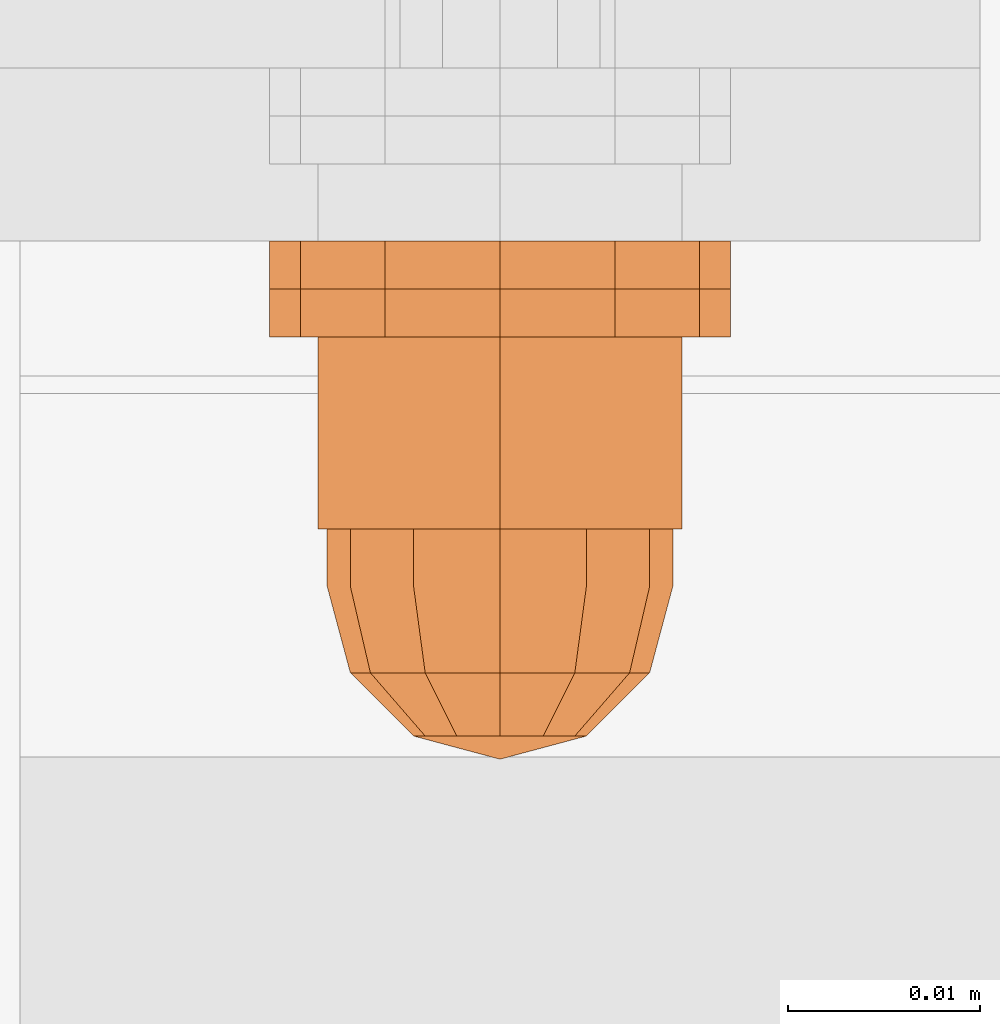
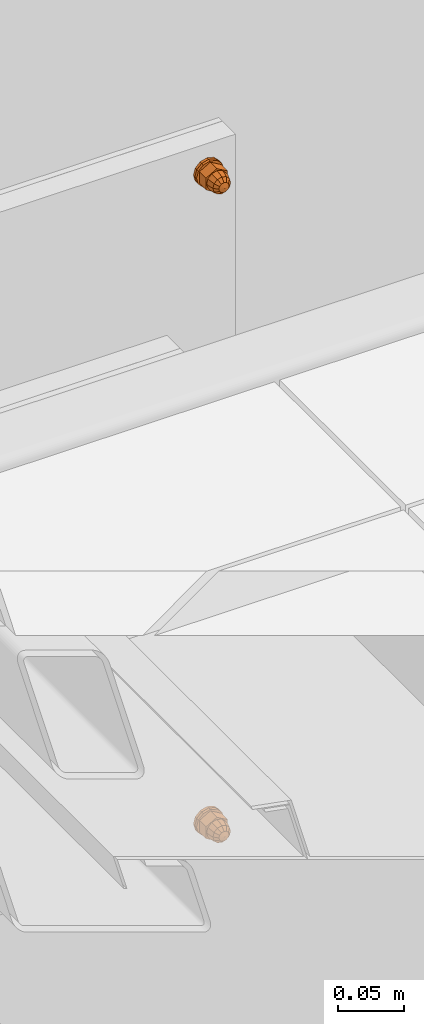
# One storey, part 140 of 162: 6 proxies.
"""IFC2X3 building model written with IfcOpenShell, lengths in millimetres."""

import ifcopenshell
import ifcopenshell.guid

model = None  # the IFC model being written
_history = None  # IfcOwnerHistory: only IFC2X3 demands one
_inside = {}  # id of a spatial element -> (the spatial element, [elements in it])
_under = {}  # id of a project, library or spatial element -> (it, [spatial elements below it])
_declared = {}  # id of a project -> (the project, [libraries it declares])
_typed = {}  # id of a type object -> (the type object, [elements of that type])
_made_of = {}  # id of a material, layer set ... -> (it, [elements and type objects made of it])


def new_model(schema):
    """Start an empty IFC model of exactly this schema.

    Asked for "IFC4X3", IfcOpenShell would pick the latest addendum, in which some entities
    have other attributes; the version numbers below select the first issue.
    IFC2X3 requires an IfcOwnerHistory on every rooted entity: one is made here for all.
    """
    global model, _history
    if schema == "IFC4X3":
        model = ifcopenshell.file(schema_version=(4, 3, 0, 0))
    else:
        model = ifcopenshell.file(schema=schema)
    _inside.clear()
    _under.clear()
    _declared.clear()
    _typed.clear()
    _made_of.clear()
    _history = None
    if model.schema == "IFC2X3":
        org = make("IfcOrganization", Name="unknown")
        user = make(
            "IfcPersonAndOrganization",
            ThePerson=make("IfcPerson", FamilyName="unknown"),
            TheOrganization=org,
        )
        app = make(
            "IfcApplication",
            ApplicationDeveloper=org,
            Version="unknown",
            ApplicationFullName="unknown",
            ApplicationIdentifier="unknown",
        )
        _history = make(
            "IfcOwnerHistory",
            OwningUser=user,
            OwningApplication=app,
            ChangeAction="ADDED",
            CreationDate=0,
        )
    return model


def make(cls, **values):
    """One entity of the class cls with the attributes given. An attribute that is None is left unset."""
    return model.create_entity(
        cls, **{name: value for name, value in values.items() if value is not None}
    )


def entity(cls, *values):
    """Any entity or typed value of the class cls, its attributes in the order of the schema. None: left unset."""
    e = model.create_entity(cls)
    for i, value in enumerate(values):
        if value is not None:
            e[i] = value
    return e


def rooted(cls, **values):
    """An entity with a GlobalId (a new one), such as an element, a storey or a relation."""
    return make(cls, GlobalId=ifcopenshell.guid.new(), OwnerHistory=_history, **values)


def si_unit(unit_type, name, prefix=None):
    """IfcSIUnit, for example si_unit("LENGTHUNIT", "METRE", prefix="MILLI")."""
    return make("IfcSIUnit", UnitType=unit_type, Prefix=prefix, Name=name)


def converted_unit(unit_type, name, factor, base, dimensions=None, offset=None):
    """IfcConversionBasedUnit, such as the inch: factor (a typed value) times the base unit."""
    return make(
        "IfcConversionBasedUnit"
        if offset is None
        else "IfcConversionBasedUnitWithOffset",
        ConversionOffset=offset,
        Dimensions=None
        if dimensions is None
        else entity("IfcDimensionalExponents", *dimensions),
        UnitType=unit_type,
        Name=name,
        ConversionFactor=make(
            "IfcMeasureWithUnit", ValueComponent=factor, UnitComponent=base
        ),
    )


def assignment(units):
    """IfcUnitAssignment: the units of a project."""
    return None if units is None else make("IfcUnitAssignment", Units=units)


def point(xyz):
    """IfcCartesianPoint."""
    return None if xyz is None else make("IfcCartesianPoint", Coordinates=xyz)


def direction(xyz):
    """IfcDirection."""
    return None if xyz is None else make("IfcDirection", DirectionRatios=xyz)


def frame(location, z_axis=None, x_axis=None):
    """IfcAxis2Placement3D, a coordinate frame: its origin and axes. An axis left out is left unset."""
    return make(
        "IfcAxis2Placement3D",
        Location=point(location),
        Axis=direction(z_axis),
        RefDirection=direction(x_axis),
    )


def origin_with_axes():
    """The frame at (0, 0, 0) with the z axis (0, 0, 1) and the x axis (1, 0, 0) written out."""
    return frame((0.0, 0.0, 0.0), z_axis=(0.0, 0.0, 1.0), x_axis=(1.0, 0.0, 0.0))


def place(relative_to, where):
    """IfcLocalPlacement: puts the frame where relative to a parent placement (None: the world)."""
    return make(
        "IfcLocalPlacement", PlacementRelTo=relative_to, RelativePlacement=where
    )


def context(
    kind, dimensions, precision=None, world=None, true_north=None, identifier=None
):
    """IfcGeometricRepresentationContext, for example the 3D "Model" context."""
    return make(
        "IfcGeometricRepresentationContext",
        ContextIdentifier=identifier,
        ContextType=kind,
        CoordinateSpaceDimension=dimensions,
        Precision=precision,
        WorldCoordinateSystem=world,
        TrueNorth=true_north,
    )


def project(units=None, contexts=None):
    """IfcProject with its units and contexts."""
    return rooted(
        "IfcProject",
        Name="project",
        RepresentationContexts=contexts,
        UnitsInContext=assignment(units),
    )


def spatial(cls, under=None, at=None, **own):
    """A site, building, storey or space (cls), placed at a placement, below another one or the project."""
    s = rooted(cls, ObjectPlacement=at, **own)
    if under is not None:
        _under.setdefault(under.id(), (under, []))[1].append(s)
    return s


def faces_of(points, faces, orient=None, outer=None):
    """IfcFace entities. A face is a list of loops; a loop is a list of indices into points, from 0.

    orient and outer hold one flag for each loop. By default every Orientation is true, the
    first loop of a face is its IfcFaceOuterBound and the others are IfcFaceBound.
    """
    made = []
    for i, loops in enumerate(faces):
        bounds = []
        for j, loop in enumerate(loops):
            is_outer = j == 0 if outer is None else outer[i][j]
            bounds.append(
                make(
                    "IfcFaceOuterBound" if is_outer else "IfcFaceBound",
                    Bound=make("IfcPolyLoop", Polygon=[points[k] for k in loop]),
                    Orientation=True if orient is None else orient[i][j],
                )
            )
        made.append(make("IfcFace", Bounds=bounds))
    return made


def faceted_brep(points, faces, orient=None, outer=None, voids=None):
    """IfcFacetedBrep: a solid bounded by flat faces; with voids (closed shells), ...WithVoids."""
    shared = [point(p) for p in points]
    hull = make("IfcClosedShell", CfsFaces=faces_of(shared, faces, orient, outer))
    if voids is None:
        return make("IfcFacetedBrep", Outer=hull)
    return make(
        "IfcFacetedBrepWithVoids",
        Outer=hull,
        Voids=[
            make(cls, CfsFaces=faces_of(shared, fs, o, b)) for cls, fs, o, b in voids
        ],
    )


def shape(context_of_items, identifier, shape_type, items):
    """IfcShapeRepresentation: the items that make up one representation, for example the "Body"."""
    return make(
        "IfcShapeRepresentation",
        ContextOfItems=context_of_items,
        RepresentationIdentifier=identifier,
        RepresentationType=shape_type,
        Items=items,
    )


def material(Name=None, Category=None):
    """IfcMaterial."""
    return make("IfcMaterial", Name=Name, Category=Category)


def made_of(thing, what):
    """Note that an element or type object is made of a material, layer set ...; save() writes the relation."""
    if what is not None:
        _made_of.setdefault(what.id(), (what, []))[1].append(thing)
    return thing


def element(
    cls,
    number,
    at=None,
    inside=None,
    cuts=None,
    type_object=None,
    material=None,
    context=None,
    identifier="Body",
    shape_type=None,
    held_by="IfcProductDefinitionShape",
    body=None,
    shapes=None,
    **own,
):
    """One element of the class cls, such as IfcWall. Its Tag is "e" and its number.

    at: its placement. inside: the storey or other place that contains it. cuts: it is an
    opening in that element (IfcRelVoidsElement). A single representation is given by context,
    identifier, shape_type and body (its items); several are given by shapes. held_by: the class
    of the entity that holds the representations. save() writes the other relations.
    """
    e = rooted(cls, Tag="e%d" % number, ObjectPlacement=at, **own)
    if body is not None:
        shapes = [shape(context, identifier, shape_type, body)]
    if shapes is not None:
        e.Representation = make(held_by, Representations=shapes)
    if inside is not None:
        _inside.setdefault(inside.id(), (inside, []))[1].append(e)
    if cuts is not None:
        rooted(
            "IfcRelVoidsElement", RelatingBuildingElement=cuts, RelatedOpeningElement=e
        )
    if type_object is not None:
        _typed.setdefault(type_object.id(), (type_object, []))[1].append(e)
    return made_of(e, material)


def aggregate(whole, parts):
    """IfcRelAggregates: a whole, such as a stair, and the parts it consists of."""
    return rooted("IfcRelAggregates", RelatingObject=whole, RelatedObjects=parts)


def save(model, path):
    """Write the relations noted so far, then the file.

    IfcRelAggregates (storeys below a building ...), IfcRelContainedInSpatialStructure (elements
    in a storey), IfcRelDefinesByType, IfcRelAssociatesMaterial and IfcRelDeclares: one each for
    every whole, place, type object, material and project.
    """
    for whole, parts in _under.values():
        aggregate(whole, parts)
    for where, things in _inside.values():
        rooted(
            "IfcRelContainedInSpatialStructure",
            RelatedElements=things,
            RelatingStructure=where,
        )
    for kind, things in _typed.values():
        rooted("IfcRelDefinesByType", RelatedObjects=things, RelatingType=kind)
    for what, things in _made_of.values():
        rooted("IfcRelAssociatesMaterial", RelatedObjects=things, RelatingMaterial=what)
    for by, libraries in _declared.values():
        rooted("IfcRelDeclares", RelatingContext=by, RelatedDefinitions=libraries)
    model.write(path)


model = new_model("IFC2X3")

# Units and contexts
model_context = context("Model", 3, precision=1e-09, world=origin_with_axes())
ifc_project = project(units=[si_unit("LENGTHUNIT", "METRE", prefix="MILLI"), si_unit("AREAUNIT", "SQUARE_METRE"), si_unit("VOLUMEUNIT", "CUBIC_METRE"), converted_unit("PLANEANGLEUNIT", "DEGREE", entity("IfcPlaneAngleMeasure", 0.01745329), si_unit("PLANEANGLEUNIT", "RADIAN"), dimensions=[0, 0, 0, 0, 0, 0, 0])], contexts=[model_context])

# Site, building, storey
site_placement = place(None, origin_with_axes())
site = spatial("IfcSite", under=ifc_project, at=site_placement, Name="Hermannstra?e 1a, 60318 Frankfurt", CompositionType="ELEMENT")
building_placement = place(site_placement, origin_with_axes())
building = spatial("IfcBuilding", under=site, at=building_placement, Name="Struktur 1", CompositionType="ELEMENT")
storey_placement = place(building_placement, origin_with_axes())
storey = spatial("IfcBuildingStorey", under=building, at=storey_placement, Name="Default Storey", CompositionType="ELEMENT", Elevation=0.0)

# Proxies
ifc_material_1 = material(Name="A4")
proxy_1_placement = place(None, origin_with_axes())
element("IfcBuildingElementProxy", 1, at=proxy_1_placement, inside=storey, material=ifc_material_1, ObjectType="-", context=model_context, shape_type="Brep", body=[
    faceted_brep([(2934.309364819, 2695.609373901, 11004.999), (2934.309364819, 2705.609373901, 11004.999), (2933.505517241, 2705.609373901, 11001.999), (2933.505517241, 2695.609373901, 11001.999), (2931.309364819, 2705.609373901, 10999.802847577), (2931.309364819, 2695.609373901, 10999.802847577), (2933.505517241, 2695.609373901, 11007.999), (2933.505517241, 2705.609373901, 11007.999), (2937.789234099, 2705.609373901, 11010.472205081), (2937.789234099, 2705.609373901, 10999.525794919), (2928.309364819, 2705.609373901, 10994.052589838), (2918.829495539, 2705.609373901, 10999.525794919), (2918.829495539, 2705.609373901, 11010.472205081), (2928.309364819, 2705.609373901, 11015.945410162), (2931.309364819, 2705.609373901, 11010.195152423), (2928.309364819, 2705.609373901, 11010.999), (2925.309364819, 2705.609373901, 11010.195152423), (2923.113212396, 2705.609373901, 11007.999), (2922.309364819, 2705.609373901, 11004.999), (2923.113212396, 2705.609373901, 11001.999), (2925.309364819, 2705.609373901, 10999.802847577), (2928.309364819, 2705.609373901, 10998.999), (2937.789234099, 2695.609373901, 11010.472205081), (2928.309364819, 2695.609373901, 11015.945410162), (2918.829495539, 2695.609373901, 11010.472205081), (2918.829495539, 2695.609373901, 10999.525794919), (2928.309364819, 2695.609373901, 10994.052589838), (2937.789234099, 2695.609373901, 10999.525794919), (2931.309364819, 2695.609373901, 11010.195152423), (2928.309364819, 2695.609373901, 10998.999), (2928.309364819, 2695.609373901, 11010.999), (2925.309364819, 2695.609373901, 10999.802847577), (2925.309364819, 2695.609373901, 11010.195152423), (2923.113212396, 2695.609373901, 11001.999), (2923.113212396, 2695.609373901, 11007.999), (2922.309364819, 2695.609373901, 11004.999)], [[[0, 1, 2, 3]], [[3, 2, 4, 5]], [[1, 0, 6, 7]], [[8, 9, 10, 11, 12, 13], [7, 14, 15, 16, 17, 18, 19, 20, 21, 4, 2, 1]], [[22, 23, 24, 25, 26, 27]], [[7, 6, 28, 14]], [[22, 27, 9, 8]], [[5, 4, 21, 29]], [[10, 9, 27, 26]], [[14, 28, 30, 15]], [[23, 22, 8, 13]], [[29, 21, 20, 31]], [[11, 10, 26, 25]], [[15, 30, 32, 16]], [[24, 23, 13, 12]], [[31, 20, 19, 33]], [[25, 24, 12, 11]], [[16, 32, 34, 17]], [[33, 19, 18, 35]], [[17, 34, 35, 18]]]),
    faceted_brep([(2928.309364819, 2692.609373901, 11013.999), (2928.309364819, 2695.609373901, 11013.999), (2923.809364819, 2695.609373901, 11012.793228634), (2923.809364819, 2692.609373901, 11012.793228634), (2932.809364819, 2692.609373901, 11012.793228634), (2932.809364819, 2695.609373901, 11012.793228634), (2932.809364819, 2692.609373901, 10997.204771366), (2936.103593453, 2692.609373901, 11000.499), (2937.309364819, 2692.609373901, 11004.999), (2936.103593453, 2692.609373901, 11009.499), (2920.515136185, 2692.609373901, 11009.499), (2919.309364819, 2692.609373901, 11004.999), (2920.515136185, 2692.609373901, 11000.499), (2923.809364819, 2692.609373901, 10997.204771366), (2928.309364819, 2692.609373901, 10995.999), (2923.809364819, 2695.609373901, 10997.204771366), (2920.515136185, 2695.609373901, 11000.499), (2919.309364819, 2695.609373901, 11004.999), (2920.515136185, 2695.609373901, 11009.499), (2936.103593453, 2695.609373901, 11009.499), (2937.309364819, 2695.609373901, 11004.999), (2936.103593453, 2695.609373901, 11000.499), (2932.809364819, 2695.609373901, 10997.204771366), (2928.309364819, 2695.609373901, 10995.999)], [[[0, 1, 2, 3]], [[1, 0, 4, 5]], [[6, 7, 8, 9, 4, 0, 3, 10, 11, 12, 13, 14]], [[15, 16, 17, 18, 2, 1, 5, 19, 20, 21, 22, 23]], [[3, 2, 18, 10]], [[5, 4, 9, 19]], [[10, 18, 17, 11]], [[19, 9, 8, 20]], [[22, 6, 14, 23]], [[7, 21, 20, 8]], [[6, 22, 21, 7]], [[11, 17, 16, 12]], [[23, 14, 13, 15]], [[12, 16, 15, 13]]]),
    faceted_brep([(2935.059364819, 2688.109373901, 11008.896114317), (2936.103593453, 2692.609373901, 11009.499), (2932.809364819, 2692.609373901, 11012.793228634), (2932.206479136, 2688.109373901, 11011.749), (2923.809364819, 2692.609373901, 10997.204771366), (2920.515136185, 2692.609373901, 11000.499), (2919.309364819, 2692.609373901, 11004.999), (2920.515136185, 2692.609373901, 11009.499), (2923.809364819, 2692.609373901, 11012.793228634), (2928.309364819, 2692.609373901, 11013.999), (2937.309364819, 2692.609373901, 11004.999), (2936.103593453, 2692.609373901, 11000.499), (2932.809364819, 2692.609373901, 10997.204771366), (2928.309364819, 2692.609373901, 10995.999), (2928.309364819, 2688.109373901, 11012.793228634), (2932.809364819, 2684.815145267, 11004.999), (2936.103593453, 2688.109373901, 11004.999), (2932.206479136, 2684.815145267, 11007.249), (2924.412250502, 2688.109373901, 11011.749), (2930.559364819, 2684.815145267, 11008.896114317), (2932.206479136, 2684.815145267, 11002.749), (2935.059364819, 2688.109373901, 11001.101885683), (2928.309364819, 2684.815145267, 11009.499), (2928.309364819, 2683.609373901, 11004.999), (2930.559364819, 2684.815145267, 11001.101885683), (2932.206479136, 2688.109373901, 10998.249), (2928.309364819, 2688.109373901, 10997.204771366), (2921.559364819, 2688.109373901, 11008.896114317), (2926.059364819, 2684.815145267, 11008.896114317), (2928.309364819, 2684.815145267, 11000.499), (2924.412250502, 2688.109373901, 10998.249), (2926.059364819, 2684.815145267, 11001.101885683), (2920.515136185, 2688.109373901, 11004.999), (2924.412250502, 2684.815145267, 11007.249), (2921.559364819, 2688.109373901, 11001.101885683), (2924.412250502, 2684.815145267, 11002.749), (2923.809364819, 2684.815145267, 11004.999)], [[[0, 1, 2, 3]], [[4, 5, 6, 7, 8, 9, 2, 1, 10, 11, 12, 13]], [[3, 2, 9, 14]], [[15, 16, 0, 17]], [[1, 0, 16, 10]], [[14, 9, 8, 18]], [[17, 0, 3, 19]], [[16, 15, 20, 21]], [[19, 3, 14, 22]], [[17, 23, 15]], [[24, 25, 21, 20]], [[15, 23, 20]], [[12, 25, 26, 13]], [[11, 21, 25, 12]], [[10, 16, 21, 11]], [[18, 8, 7, 27]], [[22, 14, 18, 28]], [[19, 23, 17]], [[29, 26, 25, 24]], [[20, 23, 24]], [[22, 23, 19]], [[13, 26, 30, 4]], [[26, 29, 31, 30]], [[24, 23, 29]], [[27, 7, 6, 32]], [[28, 18, 27, 33]], [[28, 23, 22]], [[29, 23, 31]], [[33, 23, 28]], [[4, 30, 34, 5]], [[30, 31, 35, 34]], [[31, 23, 35]], [[32, 6, 5, 34]], [[33, 27, 32, 36]], [[36, 23, 33]], [[35, 23, 36]], [[34, 35, 36, 32]]]),
])
proxy_2_placement = place(None, origin_with_axes())
element("IfcBuildingElementProxy", 2, at=proxy_2_placement, inside=storey, material=ifc_material_1, ObjectType="-", context=model_context, shape_type="Brep", body=[
    faceted_brep([(2917.917059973, 2708.109373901, 11010.999), (2917.917059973, 2705.609373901, 11010.999), (2922.309364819, 2705.609373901, 11015.391304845), (2922.309364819, 2708.109373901, 11015.391304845), (2916.309364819, 2705.609373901, 11004.999), (2917.917059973, 2705.609373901, 10998.999), (2922.309364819, 2705.609373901, 10994.606695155), (2928.309364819, 2705.609373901, 10992.999), (2934.309364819, 2705.609373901, 10994.606695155), (2938.701669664, 2705.609373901, 10998.999), (2940.309364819, 2705.609373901, 11004.999), (2938.701669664, 2705.609373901, 11010.999), (2934.309364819, 2705.609373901, 11015.391304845), (2928.309364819, 2705.609373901, 11016.999), (2928.309364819, 2705.609373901, 11011.499), (2931.559364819, 2705.609373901, 11010.628165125), (2933.938529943, 2705.609373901, 11008.249), (2934.809364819, 2705.609373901, 11004.999), (2933.938529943, 2705.609373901, 11001.749), (2931.559364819, 2705.609373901, 10999.369834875), (2928.309364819, 2705.609373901, 10998.499), (2925.059364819, 2705.609373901, 10999.369834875), (2922.680199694, 2705.609373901, 11001.749), (2921.809364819, 2705.609373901, 11004.999), (2922.680199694, 2705.609373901, 11008.249), (2925.059364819, 2705.609373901, 11010.628165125), (2922.680199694, 2708.109373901, 11008.249), (2921.809364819, 2708.109373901, 11004.999), (2922.680199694, 2708.109373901, 11001.749), (2925.059364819, 2708.109373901, 10999.369834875), (2928.309364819, 2708.109373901, 10998.499), (2931.559364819, 2708.109373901, 10999.369834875), (2933.938529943, 2708.109373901, 11001.749), (2934.809364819, 2708.109373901, 11004.999), (2933.938529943, 2708.109373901, 11008.249), (2931.559364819, 2708.109373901, 11010.628165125), (2928.309364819, 2708.109373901, 11011.499), (2925.059364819, 2708.109373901, 11010.628165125), (2916.309364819, 2708.109373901, 11004.999), (2928.309364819, 2708.109373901, 11016.999), (2917.917059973, 2708.109373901, 10998.999), (2934.309364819, 2708.109373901, 11015.391304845), (2922.309364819, 2708.109373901, 10994.606695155), (2938.701669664, 2708.109373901, 11010.999), (2928.309364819, 2708.109373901, 10992.999), (2940.309364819, 2708.109373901, 11004.999), (2934.309364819, 2708.109373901, 10994.606695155), (2938.701669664, 2708.109373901, 10998.999)], [[[0, 1, 2, 3]], [[2, 1, 4, 5, 6, 7, 8, 9, 10, 11, 12, 13], [14, 15, 16, 17, 18, 19, 20, 21, 22, 23, 24, 25]], [[26, 27, 28, 29, 30, 31, 32, 33, 34, 35, 36, 37]], [[24, 26, 37, 25]], [[1, 0, 38, 4]], [[26, 24, 23, 27]], [[25, 37, 36, 14]], [[3, 2, 13, 39]], [[4, 38, 40, 5]], [[27, 23, 22, 28]], [[14, 36, 35, 15]], [[39, 13, 12, 41]], [[5, 40, 42, 6]], [[28, 22, 21, 29]], [[15, 35, 34, 16]], [[41, 12, 11, 43]], [[33, 17, 16, 34]], [[6, 42, 44, 7]], [[29, 21, 20, 30]], [[32, 18, 17, 33]], [[43, 11, 10, 45]], [[19, 31, 30, 20]], [[18, 32, 31, 19]], [[7, 44, 46, 8]], [[45, 10, 9, 47]], [[8, 46, 47, 9]]]),
])
ifc_material_2 = material(Name="Kunststoff")
proxy_3_placement = place(None, origin_with_axes())
element("IfcBuildingElementProxy", 3, at=proxy_3_placement, inside=storey, material=ifc_material_2, ObjectType="-", context=model_context, shape_type="Brep", body=[
    faceted_brep([(2938.701669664, 2710.609373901, 11010.999), (2938.701669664, 2708.109373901, 11010.999), (2940.309364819, 2708.109373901, 11004.999), (2940.309364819, 2710.609373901, 11004.999), (2933.938529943, 2710.609373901, 11008.249), (2931.559364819, 2710.609373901, 11010.628165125), (2928.309364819, 2710.609373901, 11011.499), (2925.059364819, 2710.609373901, 11010.628165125), (2922.680199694, 2710.609373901, 11008.249), (2921.809364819, 2710.609373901, 11004.999), (2922.680199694, 2710.609373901, 11001.749), (2925.059364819, 2710.609373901, 10999.369834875), (2928.309364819, 2710.609373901, 10998.499), (2931.559364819, 2710.609373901, 10999.369834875), (2933.938529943, 2710.609373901, 11001.749), (2934.809364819, 2710.609373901, 11004.999), (2934.809364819, 2708.109373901, 11004.999), (2933.938529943, 2708.109373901, 11008.249), (2934.309364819, 2708.109373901, 11015.391304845), (2928.309364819, 2708.109373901, 11016.999), (2922.309364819, 2708.109373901, 11015.391304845), (2917.917059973, 2708.109373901, 11010.999), (2916.309364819, 2708.109373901, 11004.999), (2917.917059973, 2708.109373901, 10998.999), (2922.309364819, 2708.109373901, 10994.606695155), (2928.309364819, 2708.109373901, 10992.999), (2934.309364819, 2708.109373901, 10994.606695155), (2938.701669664, 2708.109373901, 10998.999), (2934.309364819, 2710.609373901, 11015.391304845), (2933.938529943, 2708.109373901, 11001.749), (2938.701669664, 2710.609373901, 10998.999), (2931.559364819, 2708.109373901, 11010.628165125), (2928.309364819, 2710.609373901, 11016.999), (2931.559364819, 2708.109373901, 10999.369834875), (2934.309364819, 2710.609373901, 10994.606695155), (2928.309364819, 2708.109373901, 11011.499), (2928.309364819, 2708.109373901, 10998.499), (2922.309364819, 2710.609373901, 11015.391304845), (2925.059364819, 2708.109373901, 11010.628165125), (2928.309364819, 2710.609373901, 10992.999), (2925.059364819, 2708.109373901, 10999.369834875), (2917.917059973, 2710.609373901, 11010.999), (2922.680199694, 2708.109373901, 11008.249), (2922.309364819, 2710.609373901, 10994.606695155), (2922.680199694, 2708.109373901, 11001.749), (2916.309364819, 2710.609373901, 11004.999), (2921.809364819, 2708.109373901, 11004.999), (2917.917059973, 2710.609373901, 10998.999)], [[[0, 1, 2, 3]], [[4, 5, 6, 7, 8, 9, 10, 11, 12, 13, 14, 15]], [[15, 16, 17, 4]], [[1, 18, 19, 20, 21, 22, 23, 24, 25, 26, 27, 2]], [[1, 0, 28, 18]], [[16, 15, 14, 29]], [[3, 2, 27, 30]], [[4, 17, 31, 5]], [[18, 28, 32, 19]], [[29, 14, 13, 33]], [[30, 27, 26, 34]], [[5, 31, 35, 6]], [[33, 13, 12, 36]], [[19, 32, 37, 20]], [[6, 35, 38, 7]], [[34, 26, 25, 39]], [[36, 12, 11, 40]], [[20, 37, 41, 21]], [[7, 38, 42, 8]], [[39, 25, 24, 43]], [[40, 11, 10, 44]], [[21, 41, 45, 22]], [[8, 42, 46, 9]], [[43, 24, 23, 47]], [[44, 10, 9, 46]], [[22, 45, 47, 23]]]),
])
proxy_4_placement = place(None, origin_with_axes())
element("IfcBuildingElementProxy", 4, at=proxy_4_placement, inside=storey, material=ifc_material_2, ObjectType="-", context=model_context, shape_type="Brep", body=[
    faceted_brep([(2938.701669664, 2708.109373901, 11598.999), (2938.701669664, 2710.609373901, 11598.999), (2940.309364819, 2710.609373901, 11604.999), (2940.309364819, 2708.109373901, 11604.999), (2934.309364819, 2710.609373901, 11594.606695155), (2928.309364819, 2710.609373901, 11592.999), (2922.309364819, 2710.609373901, 11594.606695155), (2917.917059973, 2710.609373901, 11598.999), (2916.309364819, 2710.609373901, 11604.999), (2917.917059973, 2710.609373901, 11610.999), (2922.309364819, 2710.609373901, 11615.391304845), (2928.309364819, 2710.609373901, 11616.999), (2934.309364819, 2710.609373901, 11615.391304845), (2938.701669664, 2710.609373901, 11610.999), (2931.559364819, 2710.609373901, 11599.369834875), (2933.938529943, 2710.609373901, 11601.749), (2934.809364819, 2710.609373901, 11604.999), (2933.938529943, 2710.609373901, 11608.249), (2931.559364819, 2710.609373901, 11610.628165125), (2928.309364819, 2710.609373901, 11611.499), (2925.059364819, 2710.609373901, 11610.628165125), (2922.680199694, 2710.609373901, 11608.249), (2921.809364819, 2710.609373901, 11604.999), (2922.680199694, 2710.609373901, 11601.749), (2925.059364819, 2710.609373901, 11599.369834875), (2928.309364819, 2710.609373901, 11598.499), (2934.809364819, 2708.109373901, 11604.999), (2933.938529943, 2708.109373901, 11601.749), (2934.309364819, 2708.109373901, 11594.606695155), (2938.701669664, 2708.109373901, 11610.999), (2934.309364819, 2708.109373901, 11615.391304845), (2928.309364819, 2708.109373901, 11616.999), (2922.309364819, 2708.109373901, 11615.391304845), (2917.917059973, 2708.109373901, 11610.999), (2916.309364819, 2708.109373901, 11604.999), (2917.917059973, 2708.109373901, 11598.999), (2922.309364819, 2708.109373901, 11594.606695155), (2928.309364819, 2708.109373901, 11592.999), (2931.559364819, 2708.109373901, 11599.369834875), (2928.309364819, 2708.109373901, 11598.499), (2925.059364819, 2708.109373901, 11599.369834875), (2922.680199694, 2708.109373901, 11601.749), (2921.809364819, 2708.109373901, 11604.999), (2922.680199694, 2708.109373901, 11608.249), (2925.059364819, 2708.109373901, 11610.628165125), (2928.309364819, 2708.109373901, 11611.499), (2931.559364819, 2708.109373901, 11610.628165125), (2933.938529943, 2708.109373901, 11608.249)], [[[0, 1, 2, 3]], [[1, 4, 5, 6, 7, 8, 9, 10, 11, 12, 13, 2], [14, 15, 16, 17, 18, 19, 20, 21, 22, 23, 24, 25]], [[26, 16, 15, 27]], [[28, 0, 3, 29, 30, 31, 32, 33, 34, 35, 36, 37], [26, 27, 38, 39, 40, 41, 42, 43, 44, 45, 46, 47]], [[1, 0, 28, 4]], [[16, 26, 47, 17]], [[3, 2, 13, 29]], [[27, 15, 14, 38]], [[4, 28, 37, 5]], [[17, 47, 46, 18]], [[29, 13, 12, 30]], [[38, 14, 25, 39]], [[18, 46, 45, 19]], [[5, 37, 36, 6]], [[39, 25, 24, 40]], [[30, 12, 11, 31]], [[19, 45, 44, 20]], [[6, 36, 35, 7]], [[40, 24, 23, 41]], [[31, 11, 10, 32]], [[20, 44, 43, 21]], [[7, 35, 34, 8]], [[41, 23, 22, 42]], [[32, 10, 9, 33]], [[21, 43, 42, 22]], [[8, 34, 33, 9]]]),
])
proxy_5_placement = place(None, origin_with_axes())
element("IfcBuildingElementProxy", 5, at=proxy_5_placement, inside=storey, material=ifc_material_1, ObjectType="-", context=model_context, shape_type="Brep", body=[
    faceted_brep([(2917.917059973, 2705.609373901, 11598.999), (2917.917059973, 2708.109373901, 11598.999), (2922.309364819, 2708.109373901, 11594.606695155), (2922.309364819, 2705.609373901, 11594.606695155), (2928.309364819, 2705.609373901, 11592.999), (2934.309364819, 2705.609373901, 11594.606695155), (2938.701669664, 2705.609373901, 11598.999), (2940.309364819, 2705.609373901, 11604.999), (2938.701669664, 2705.609373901, 11610.999), (2934.309364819, 2705.609373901, 11615.391304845), (2928.309364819, 2705.609373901, 11616.999), (2922.309364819, 2705.609373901, 11615.391304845), (2917.917059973, 2705.609373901, 11610.999), (2916.309364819, 2705.609373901, 11604.999), (2931.559364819, 2705.609373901, 11599.369834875), (2928.309364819, 2705.609373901, 11598.499), (2925.059364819, 2705.609373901, 11599.369834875), (2922.680199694, 2705.609373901, 11601.749), (2921.809364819, 2705.609373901, 11604.999), (2922.680199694, 2705.609373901, 11608.249), (2925.059364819, 2705.609373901, 11610.628165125), (2928.309364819, 2705.609373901, 11611.499), (2931.559364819, 2705.609373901, 11610.628165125), (2933.938529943, 2705.609373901, 11608.249), (2934.809364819, 2705.609373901, 11604.999), (2933.938529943, 2705.609373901, 11601.749), (2916.309364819, 2708.109373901, 11604.999), (2917.917059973, 2708.109373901, 11610.999), (2922.309364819, 2708.109373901, 11615.391304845), (2928.309364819, 2708.109373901, 11616.999), (2934.309364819, 2708.109373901, 11615.391304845), (2938.701669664, 2708.109373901, 11610.999), (2940.309364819, 2708.109373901, 11604.999), (2938.701669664, 2708.109373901, 11598.999), (2934.309364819, 2708.109373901, 11594.606695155), (2928.309364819, 2708.109373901, 11592.999), (2921.809364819, 2708.109373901, 11604.999), (2922.680199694, 2708.109373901, 11601.749), (2925.059364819, 2708.109373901, 11599.369834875), (2928.309364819, 2708.109373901, 11598.499), (2931.559364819, 2708.109373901, 11599.369834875), (2933.938529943, 2708.109373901, 11601.749), (2934.809364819, 2708.109373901, 11604.999), (2933.938529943, 2708.109373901, 11608.249), (2931.559364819, 2708.109373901, 11610.628165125), (2928.309364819, 2708.109373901, 11611.499), (2925.059364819, 2708.109373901, 11610.628165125), (2922.680199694, 2708.109373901, 11608.249)], [[[0, 1, 2, 3]], [[3, 4, 5, 6, 7, 8, 9, 10, 11, 12, 13, 0], [14, 15, 16, 17, 18, 19, 20, 21, 22, 23, 24, 25]], [[1, 26, 27, 28, 29, 30, 31, 32, 33, 34, 35, 2], [36, 37, 38, 39, 40, 41, 42, 43, 44, 45, 46, 47]], [[37, 17, 16, 38]], [[1, 0, 13, 26]], [[17, 37, 36, 18]], [[38, 16, 15, 39]], [[3, 2, 35, 4]], [[26, 13, 12, 27]], [[18, 36, 47, 19]], [[39, 15, 14, 40]], [[4, 35, 34, 5]], [[27, 12, 11, 28]], [[19, 47, 46, 20]], [[40, 14, 25, 41]], [[5, 34, 33, 6]], [[24, 42, 41, 25]], [[28, 11, 10, 29]], [[20, 46, 45, 21]], [[23, 43, 42, 24]], [[6, 33, 32, 7]], [[44, 22, 21, 45]], [[43, 23, 22, 44]], [[29, 10, 9, 30]], [[7, 32, 31, 8]], [[30, 9, 8, 31]]]),
])
proxy_6_placement = place(None, origin_with_axes())
element("IfcBuildingElementProxy", 6, at=proxy_6_placement, inside=storey, material=ifc_material_1, ObjectType="-", context=model_context, shape_type="Brep", body=[
    faceted_brep([(2934.309364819, 2705.609373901, 11604.999), (2934.309364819, 2695.609373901, 11604.999), (2933.505517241, 2695.609373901, 11607.999), (2933.505517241, 2705.609373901, 11607.999), (2931.309364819, 2695.609373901, 11610.195152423), (2931.309364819, 2705.609373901, 11610.195152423), (2933.505517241, 2705.609373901, 11601.999), (2933.505517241, 2695.609373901, 11601.999), (2937.789234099, 2705.609373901, 11599.525794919), (2928.309364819, 2705.609373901, 11594.052589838), (2918.829495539, 2705.609373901, 11599.525794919), (2918.829495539, 2705.609373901, 11610.472205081), (2928.309364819, 2705.609373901, 11615.945410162), (2937.789234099, 2705.609373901, 11610.472205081), (2931.309364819, 2705.609373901, 11599.802847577), (2928.309364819, 2705.609373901, 11610.999), (2925.309364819, 2705.609373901, 11610.195152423), (2923.113212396, 2705.609373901, 11607.999), (2922.309364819, 2705.609373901, 11604.999), (2923.113212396, 2705.609373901, 11601.999), (2925.309364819, 2705.609373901, 11599.802847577), (2928.309364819, 2705.609373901, 11598.999), (2928.309364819, 2695.609373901, 11594.052589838), (2937.789234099, 2695.609373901, 11599.525794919), (2937.789234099, 2695.609373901, 11610.472205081), (2928.309364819, 2695.609373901, 11615.945410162), (2918.829495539, 2695.609373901, 11610.472205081), (2918.829495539, 2695.609373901, 11599.525794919), (2931.309364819, 2695.609373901, 11599.802847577), (2928.309364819, 2695.609373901, 11598.999), (2925.309364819, 2695.609373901, 11599.802847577), (2923.113212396, 2695.609373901, 11601.999), (2922.309364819, 2695.609373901, 11604.999), (2923.113212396, 2695.609373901, 11607.999), (2925.309364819, 2695.609373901, 11610.195152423), (2928.309364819, 2695.609373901, 11610.999)], [[[0, 1, 2, 3]], [[3, 2, 4, 5]], [[1, 0, 6, 7]], [[8, 9, 10, 11, 12, 13], [14, 6, 0, 3, 5, 15, 16, 17, 18, 19, 20, 21]], [[22, 23, 24, 25, 26, 27], [1, 7, 28, 29, 30, 31, 32, 33, 34, 35, 4, 2]], [[7, 6, 14, 28]], [[24, 23, 8, 13]], [[5, 4, 35, 15]], [[13, 12, 25, 24]], [[28, 14, 21, 29]], [[23, 22, 9, 8]], [[15, 35, 34, 16]], [[12, 11, 26, 25]], [[29, 21, 20, 30]], [[22, 27, 10, 9]], [[16, 34, 33, 17]], [[27, 26, 11, 10]], [[30, 20, 19, 31]], [[17, 33, 32, 18]], [[31, 19, 18, 32]]]),
    faceted_brep([(2928.309364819, 2695.609373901, 11595.999), (2928.309364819, 2692.609373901, 11595.999), (2923.809364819, 2692.609373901, 11597.204771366), (2923.809364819, 2695.609373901, 11597.204771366), (2932.809364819, 2695.609373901, 11597.204771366), (2932.809364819, 2692.609373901, 11597.204771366), (2936.103593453, 2692.609373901, 11609.499), (2932.809364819, 2692.609373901, 11612.793228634), (2928.309364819, 2692.609373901, 11613.999), (2923.809364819, 2692.609373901, 11612.793228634), (2920.515136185, 2692.609373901, 11609.499), (2919.309364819, 2692.609373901, 11604.999), (2920.515136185, 2692.609373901, 11600.499), (2936.103593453, 2692.609373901, 11600.499), (2937.309364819, 2692.609373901, 11604.999), (2920.515136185, 2695.609373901, 11609.499), (2923.809364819, 2695.609373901, 11612.793228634), (2928.309364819, 2695.609373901, 11613.999), (2932.809364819, 2695.609373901, 11612.793228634), (2936.103593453, 2695.609373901, 11609.499), (2937.309364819, 2695.609373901, 11604.999), (2936.103593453, 2695.609373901, 11600.499), (2920.515136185, 2695.609373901, 11600.499), (2919.309364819, 2695.609373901, 11604.999)], [[[0, 1, 2, 3]], [[1, 0, 4, 5]], [[6, 7, 8, 9, 10, 11, 12, 2, 1, 5, 13, 14]], [[15, 16, 17, 18, 19, 20, 21, 4, 0, 3, 22, 23]], [[3, 2, 12, 22]], [[5, 4, 21, 13]], [[22, 12, 11, 23]], [[13, 21, 20, 14]], [[7, 18, 17, 8]], [[19, 6, 14, 20]], [[18, 7, 6, 19]], [[23, 11, 10, 15]], [[8, 17, 16, 9]], [[15, 10, 9, 16]]]),
    faceted_brep([(2936.103593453, 2692.609373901, 11600.499), (2935.059364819, 2688.109373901, 11601.101885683), (2932.206479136, 2688.109373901, 11598.249), (2932.809364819, 2692.609373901, 11597.204771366), (2920.515136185, 2692.609373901, 11609.499), (2923.809364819, 2692.609373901, 11612.793228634), (2928.309364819, 2692.609373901, 11613.999), (2932.809364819, 2692.609373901, 11612.793228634), (2936.103593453, 2692.609373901, 11609.499), (2937.309364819, 2692.609373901, 11604.999), (2928.309364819, 2692.609373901, 11595.999), (2923.809364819, 2692.609373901, 11597.204771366), (2920.515136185, 2692.609373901, 11600.499), (2919.309364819, 2692.609373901, 11604.999), (2928.309364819, 2688.109373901, 11597.204771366), (2936.103593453, 2688.109373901, 11604.999), (2932.809364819, 2684.815145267, 11604.999), (2932.206479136, 2684.815145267, 11602.749), (2924.412250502, 2688.109373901, 11598.249), (2930.559364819, 2684.815145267, 11601.101885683), (2935.059364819, 2688.109373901, 11608.896114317), (2932.206479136, 2684.815145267, 11607.249), (2928.309364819, 2684.815145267, 11600.499), (2928.309364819, 2683.609373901, 11604.999), (2932.206479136, 2688.109373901, 11611.749), (2930.559364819, 2684.815145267, 11608.896114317), (2928.309364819, 2688.109373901, 11612.793228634), (2921.559364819, 2688.109373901, 11601.101885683), (2926.059364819, 2684.815145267, 11601.101885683), (2928.309364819, 2684.815145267, 11609.499), (2924.412250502, 2688.109373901, 11611.749), (2926.059364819, 2684.815145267, 11608.896114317), (2920.515136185, 2688.109373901, 11604.999), (2924.412250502, 2684.815145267, 11602.749), (2921.559364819, 2688.109373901, 11608.896114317), (2924.412250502, 2684.815145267, 11607.249), (2923.809364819, 2684.815145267, 11604.999)], [[[0, 1, 2, 3]], [[4, 5, 6, 7, 8, 9, 0, 3, 10, 11, 12, 13]], [[3, 2, 14, 10]], [[15, 16, 17, 1]], [[1, 0, 9, 15]], [[10, 14, 18, 11]], [[1, 17, 19, 2]], [[16, 15, 20, 21]], [[2, 19, 22, 14]], [[23, 17, 16]], [[24, 25, 21, 20]], [[23, 16, 21]], [[24, 7, 6, 26]], [[20, 8, 7, 24]], [[15, 9, 8, 20]], [[11, 18, 27, 12]], [[14, 22, 28, 18]], [[23, 19, 17]], [[26, 29, 25, 24]], [[23, 21, 25]], [[23, 22, 19]], [[26, 6, 5, 30]], [[29, 26, 30, 31]], [[23, 25, 29]], [[12, 27, 32, 13]], [[18, 28, 33, 27]], [[23, 28, 22]], [[23, 29, 31]], [[23, 33, 28]], [[30, 5, 4, 34]], [[31, 30, 34, 35]], [[23, 31, 35]], [[13, 32, 34, 4]], [[27, 33, 36, 32]], [[23, 36, 33]], [[23, 35, 36]], [[35, 34, 32, 36]]]),
])

save(model, "model.ifc")
